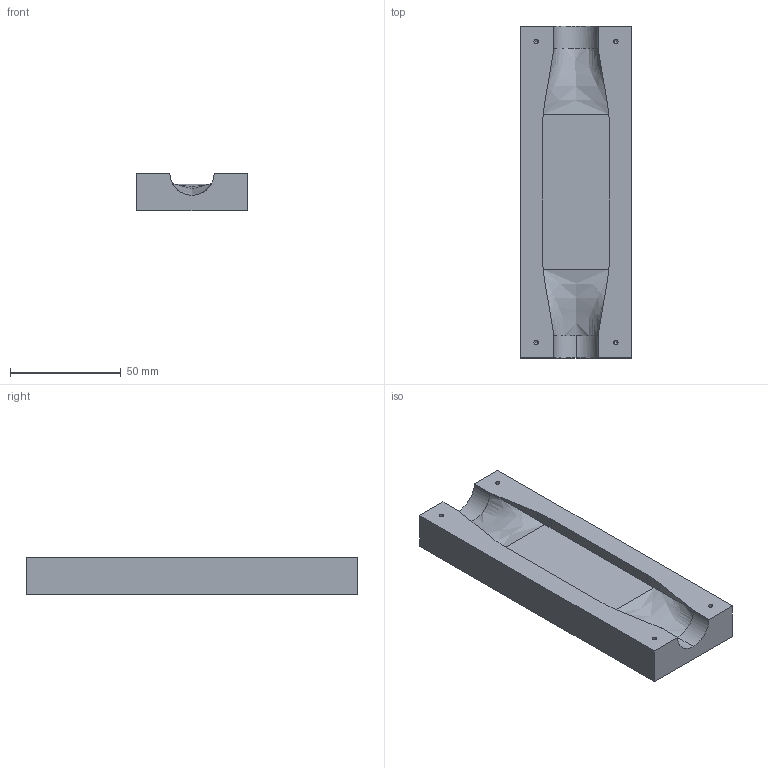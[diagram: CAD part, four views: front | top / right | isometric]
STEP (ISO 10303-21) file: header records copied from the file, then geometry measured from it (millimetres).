
FILE_DESCRIPTION (( 'STEP AP214' ), '1' );
FILE_NAME ('Pruzor_dil_v.1.STEP', '2019-08-05T07:20:35', ( '' ), ( '' ), 'SwSTEP 2.0', 'SolidWorks 2016', '' );
FILE_SCHEMA (( 'AUTOMOTIVE_DESIGN' ));
Length unit declared in the file: millimetre
Products named in the file (1): Pruzor_dil_v.1
Bounding box: 50 x 150 x 17 mm (x, y, z)
Volume: 104948.3 mm3; surface area: 23070.6 mm2
Topology: 1 solids, 1 shells, 39 faces, 99 edges, 58 vertices
Faces by surface type: cylinder 15, plane 14, cone 8, bspline 2
Entity records: 1336 total; most frequent: CARTESIAN_POINT 405, DIRECTION 186, ORIENTED_EDGE 182, EDGE_CURVE 91, AXIS2_PLACEMENT_3D 65, VERTEX_POINT 58, LINE 56, VECTOR 56
